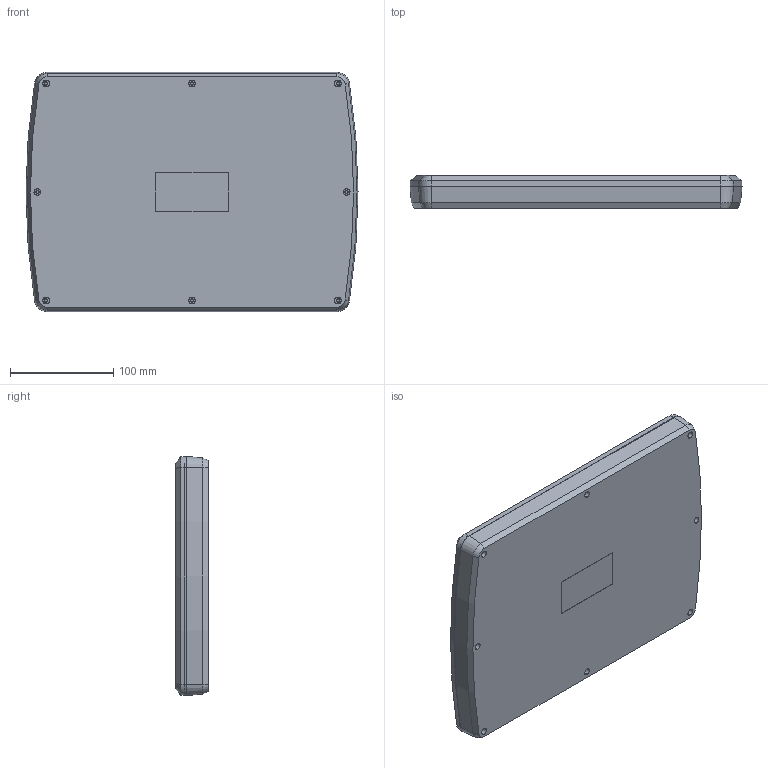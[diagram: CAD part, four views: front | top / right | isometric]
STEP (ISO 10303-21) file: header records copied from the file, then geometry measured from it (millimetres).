
FILE_DESCRIPTION (( 'STEP AP203' ), '1' );
FILE_NAME ('PH2110.STEP', '2018-03-15T08:13:06', ( '' ), ( '' ), 'SwSTEP 2.0', 'SolidWorks 2015', '' );
FILE_SCHEMA (( 'CONFIG_CONTROL_DESIGN' ));
Length unit declared in the file: millimetre
Products named in the file (3): PH2110
Assembly tree (2 placements, depth 2):
  PH2110
    PH2110
    PH2110
Bounding box: 322 x 32 x 232 mm (x, y, z)
Volume: 427839.5 mm3; surface area: 359420.5 mm2
Topology: 2 solids, 2 shells, 464 faces, 1058 edges, 692 vertices
Faces by surface type: cone 186, plane 168, cylinder 68, bspline 42
Entity records: 17938 total; most frequent: CARTESIAN_POINT 7030, DIRECTION 2270, ORIENTED_EDGE 2116, EDGE_CURVE 1058, AXIS2_PLACEMENT_3D 929, VERTEX_POINT 692, EDGE_LOOP 574, CIRCLE 502
